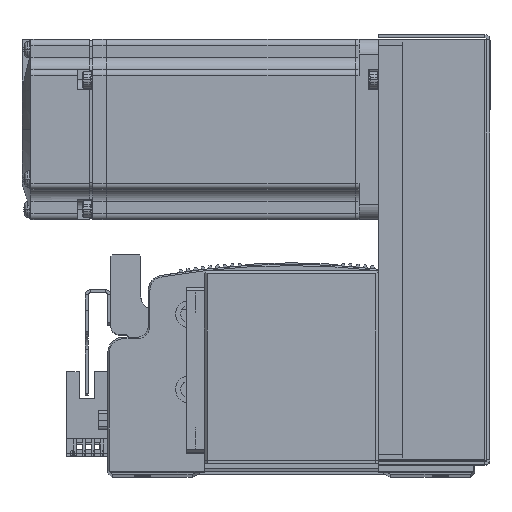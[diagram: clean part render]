
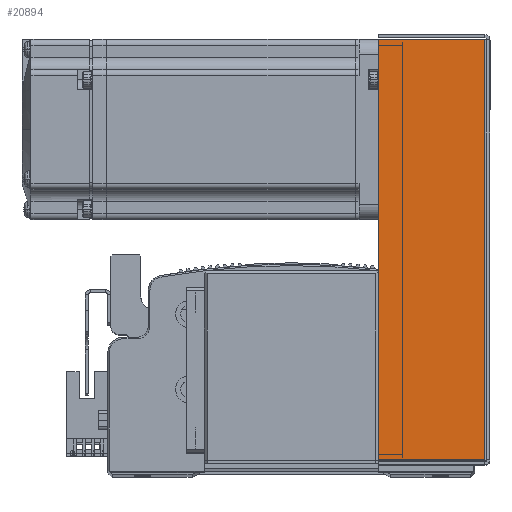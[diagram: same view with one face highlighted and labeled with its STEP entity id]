
A CAD part, top view. The second image highlights one B-rep face of the part: STEP entity #20894.
In plain terms, the highlighted planar face has unit normal (0, 0, 1) as drawn and (0, 0, -1) by its records, which use the part's own axes.
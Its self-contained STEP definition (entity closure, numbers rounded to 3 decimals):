
#9817 = EDGE_CURVE ( 'NONE', #32083, #32112, #37008, .T. ) ;
#9853 = EDGE_CURVE ( 'NONE', #32155, #32112, #37124, .T. ) ;
#9867 = EDGE_CURVE ( 'NONE', #32108, #32155, #37102, .T. ) ;
#9872 = EDGE_CURVE ( 'NONE', #32108, #32083, #37094, .T. ) ;
#20894 = ADVANCED_FACE ( 'NONE', ( #35050 ), #81157, .F. ) ;
#29292 = ORIENTED_EDGE ( 'NONE', *, *, #9817, .T. ) ;
#29319 = ORIENTED_EDGE ( 'NONE', *, *, #9872, .T. ) ;
#29336 = ORIENTED_EDGE ( 'NONE', *, *, #9853, .F. ) ;
#29346 = ORIENTED_EDGE ( 'NONE', *, *, #9867, .F. ) ;
#32083 = VERTEX_POINT ( 'NONE', #45906 ) ;
#32108 = VERTEX_POINT ( 'NONE', #45936 ) ;
#32112 = VERTEX_POINT ( 'NONE', #45898 ) ;
#32155 = VERTEX_POINT ( 'NONE', #45967 ) ;
#35050 = FACE_OUTER_BOUND ( 'NONE', #55503, .T. ) ;
#37008 = LINE ( 'NONE', #65379, #37033 ) ;
#37033 = VECTOR ( 'NONE', #65369, 1000. ) ;
#37077 = VECTOR ( 'NONE', #65454, 1000. ) ;
#37094 = LINE ( 'NONE', #65546, #37134 ) ;
#37102 = LINE ( 'NONE', #65517, #37125 ) ;
#37124 = LINE ( 'NONE', #65477, #37077 ) ;
#37125 = VECTOR ( 'NONE', #65532, 1000. ) ;
#37134 = VECTOR ( 'NONE', #65560, 1000. ) ;
#45898 = CARTESIAN_POINT ( 'NONE',  ( 69.793, 36., -33.5 ) ) ;
#45906 = CARTESIAN_POINT ( 'NONE',  ( -69.793, 36., -33.5 ) ) ;
#45936 = CARTESIAN_POINT ( 'NONE',  ( -69.793, 0.737, -33.5 ) ) ;
#45967 = CARTESIAN_POINT ( 'NONE',  ( 69.793, 0.737, -33.5 ) ) ;
#49168 = AXIS2_PLACEMENT_3D ( 'NONE', #81125, #81151, #81135 ) ;
#55503 = EDGE_LOOP ( 'NONE', ( #29346, #29319, #29292, #29336 ) ) ;
#65369 = DIRECTION ( 'NONE',  ( 1., 0., 0. ) ) ;
#65379 = CARTESIAN_POINT ( 'NONE',  ( 0., 36., -33.5 ) ) ;
#65454 = DIRECTION ( 'NONE',  ( 0., 1., 0. ) ) ;
#65477 = CARTESIAN_POINT ( 'NONE',  ( 69.793, 0., -33.5 ) ) ;
#65517 = CARTESIAN_POINT ( 'NONE',  ( 71.5, 0.737, -33.5 ) ) ;
#65532 = DIRECTION ( 'NONE',  ( 1., 0., 0. ) ) ;
#65546 = CARTESIAN_POINT ( 'NONE',  ( -69.793, 0., -33.5 ) ) ;
#65560 = DIRECTION ( 'NONE',  ( 0., 1., 0. ) ) ;
#81125 = CARTESIAN_POINT ( 'NONE',  ( 0., 0., -33.5 ) ) ;
#81135 = DIRECTION ( 'NONE',  ( 0., -1., 0. ) ) ;
#81151 = DIRECTION ( 'NONE',  ( 0., 0., 1. ) ) ;
#81157 = PLANE ( 'NONE',  #49168 ) ;
